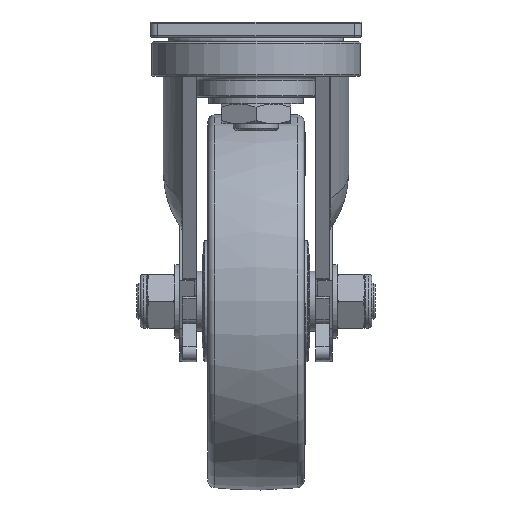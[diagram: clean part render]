
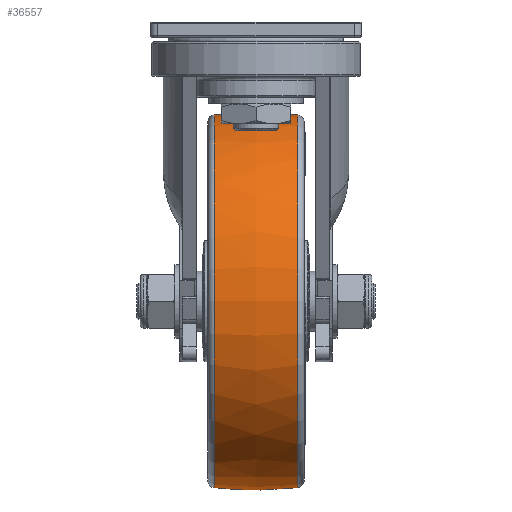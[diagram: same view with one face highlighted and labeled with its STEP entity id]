
A CAD part, left-side view. The second image highlights one B-rep face of the part: STEP entity #36557.
In plain terms, the highlighted free-form (B-spline) face has degree [2, 2] with [3, 9] control points.
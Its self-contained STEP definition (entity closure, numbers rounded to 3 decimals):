
#13=(
BOUNDED_SURFACE()
B_SPLINE_SURFACE(2,2,((#59254,#59255,#59256,#59257,#59258,#59259,#59260,
#59261,#59262),(#59263,#59264,#59265,#59266,#59267,#59268,#59269,#59270,
#59271),(#59272,#59273,#59274,#59275,#59276,#59277,#59278,#59279,#59280)),
 .UNSPECIFIED.,.F.,.T.,.F.)
B_SPLINE_SURFACE_WITH_KNOTS((3,3),(3,2,2,2,3),(-0.11,0.11),
(-3.142,-1.571,0.,1.571,3.142),
 .UNSPECIFIED.)
GEOMETRIC_REPRESENTATION_ITEM()
RATIONAL_B_SPLINE_SURFACE(((1.,0.707,1.,0.707,1.,
0.707,1.,0.707,1.),(0.994,0.703,
0.994,0.703,0.994,0.703,
0.994,0.703,0.994),(1.,0.707,
1.,0.707,1.,0.707,1.,0.707,1.)))
REPRESENTATION_ITEM('')
SURFACE()
);
#8531=(
BOUNDED_CURVE()
B_SPLINE_CURVE(2,(#59285,#59286,#59287),.UNSPECIFIED.,.F.,.F.)
B_SPLINE_CURVE_WITH_KNOTS((3,3),(-0.11,0.11),
 .UNSPECIFIED.)
CURVE()
GEOMETRIC_REPRESENTATION_ITEM()
RATIONAL_B_SPLINE_CURVE((1.,0.994,1.))
REPRESENTATION_ITEM('')
);
#10164=FACE_OUTER_BOUND('',#12422,.T.);
#12422=EDGE_LOOP('',(#29829,#29830,#29831,#29832,#29833,#29834));
#13432=CIRCLE('',#38423,12.348);
#13433=CIRCLE('',#38424,12.348);
#13435=CIRCLE('',#38426,12.348);
#13436=CIRCLE('',#38427,12.348);
#16461=VERTEX_POINT('',#59248);
#16462=VERTEX_POINT('',#59249);
#16464=VERTEX_POINT('',#59281);
#16465=VERTEX_POINT('',#59282);
#21111=EDGE_CURVE('',#16461,#16462,#13432,.T.);
#21112=EDGE_CURVE('',#16462,#16461,#13433,.T.);
#21114=EDGE_CURVE('',#16464,#16465,#13435,.T.);
#21115=EDGE_CURVE('',#16465,#16464,#13436,.T.);
#21116=EDGE_CURVE('',#16465,#16462,#8531,.T.);
#29829=ORIENTED_EDGE('',*,*,#21114,.F.);
#29830=ORIENTED_EDGE('',*,*,#21115,.F.);
#29831=ORIENTED_EDGE('',*,*,#21116,.T.);
#29832=ORIENTED_EDGE('',*,*,#21112,.T.);
#29833=ORIENTED_EDGE('',*,*,#21111,.T.);
#29834=ORIENTED_EDGE('',*,*,#21116,.F.);
#36557=ADVANCED_FACE('',(#10164),#13,.F.);
#38423=AXIS2_PLACEMENT_3D('',#59250,#44151,#44152);
#38424=AXIS2_PLACEMENT_3D('',#59251,#44153,#44154);
#38426=AXIS2_PLACEMENT_3D('',#59283,#44157,#44158);
#38427=AXIS2_PLACEMENT_3D('',#59284,#44159,#44160);
#44151=DIRECTION('center_axis',(0.,-1.,0.));
#44152=DIRECTION('ref_axis',(0.,0.,
1.));
#44153=DIRECTION('center_axis',(0.,-1.,0.));
#44154=DIRECTION('ref_axis',(0.,0.,
1.));
#44157=DIRECTION('center_axis',(0.,-1.,0.));
#44158=DIRECTION('ref_axis',(0.,0.,
1.));
#44159=DIRECTION('center_axis',(0.,-1.,0.));
#44160=DIRECTION('ref_axis',(0.,0.,
1.));
#59248=CARTESIAN_POINT('',(-4.848,2.755,-18.5));
#59249=CARTESIAN_POINT('',(7.5,2.755,-30.848));
#59250=CARTESIAN_POINT('Origin',(7.5,2.755,-18.5));
#59251=CARTESIAN_POINT('Origin',(7.5,2.755,-18.5));
#59254=CARTESIAN_POINT('Ctrl Pts',(7.5,2.755,-30.848));
#59255=CARTESIAN_POINT('Ctrl Pts',(19.848,2.755,-30.848));
#59256=CARTESIAN_POINT('Ctrl Pts',(19.848,2.755,-18.5));
#59257=CARTESIAN_POINT('Ctrl Pts',(19.848,2.755,-6.152));
#59258=CARTESIAN_POINT('Ctrl Pts',(7.5,2.755,-6.152));
#59259=CARTESIAN_POINT('Ctrl Pts',(-4.848,2.755,-6.152));
#59260=CARTESIAN_POINT('Ctrl Pts',(-4.848,2.755,-18.5));
#59261=CARTESIAN_POINT('Ctrl Pts',(-4.848,2.755,-30.848));
#59262=CARTESIAN_POINT('Ctrl Pts',(7.5,2.755,-30.848));
#59263=CARTESIAN_POINT('Ctrl Pts',(7.5,0.,
-31.153));
#59264=CARTESIAN_POINT('Ctrl Pts',(20.153,0.,
-31.153));
#59265=CARTESIAN_POINT('Ctrl Pts',(20.153,0.,
-18.5));
#59266=CARTESIAN_POINT('Ctrl Pts',(20.153,0.,
-5.847));
#59267=CARTESIAN_POINT('Ctrl Pts',(7.5,0.,
-5.847));
#59268=CARTESIAN_POINT('Ctrl Pts',(-5.153,0.,
-5.847));
#59269=CARTESIAN_POINT('Ctrl Pts',(-5.153,0.,
-18.5));
#59270=CARTESIAN_POINT('Ctrl Pts',(-5.153,0.,
-31.153));
#59271=CARTESIAN_POINT('Ctrl Pts',(7.5,0.,
-31.153));
#59272=CARTESIAN_POINT('Ctrl Pts',(7.5,-2.755,-30.848));
#59273=CARTESIAN_POINT('Ctrl Pts',(19.848,-2.755,-30.848));
#59274=CARTESIAN_POINT('Ctrl Pts',(19.848,-2.755,-18.5));
#59275=CARTESIAN_POINT('Ctrl Pts',(19.848,-2.755,-6.152));
#59276=CARTESIAN_POINT('Ctrl Pts',(7.5,-2.755,-6.152));
#59277=CARTESIAN_POINT('Ctrl Pts',(-4.848,-2.755,
-6.152));
#59278=CARTESIAN_POINT('Ctrl Pts',(-4.848,-2.755,
-18.5));
#59279=CARTESIAN_POINT('Ctrl Pts',(-4.848,-2.755,
-30.848));
#59280=CARTESIAN_POINT('Ctrl Pts',(7.5,-2.755,-30.848));
#59281=CARTESIAN_POINT('',(-4.848,-2.755,-18.5));
#59282=CARTESIAN_POINT('',(7.5,-2.755,-30.848));
#59283=CARTESIAN_POINT('Origin',(7.5,-2.755,-18.5));
#59284=CARTESIAN_POINT('Origin',(7.5,-2.755,-18.5));
#59285=CARTESIAN_POINT('Ctrl Pts',(7.5,-2.755,-30.848));
#59286=CARTESIAN_POINT('Ctrl Pts',(7.5,0.,
-31.153));
#59287=CARTESIAN_POINT('Ctrl Pts',(7.5,2.755,-30.848));
